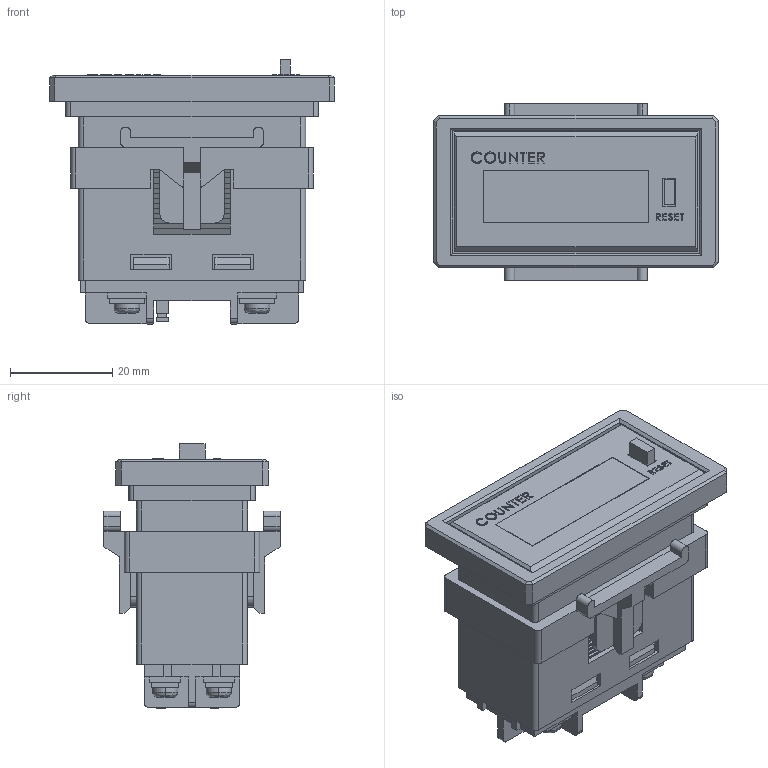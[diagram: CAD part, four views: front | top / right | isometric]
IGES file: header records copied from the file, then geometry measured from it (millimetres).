
Start section: SolidWorks IGES file using analytic representation for surfaces
Global section: file name: D:\X - Arquivos\PROEX\Empresas\P11 - METALTEX\01 - Produtos\IGES\6ª remessa\2ª etapa\LC7.IGS; native system: SolidWorks 2012; preprocessor: SolidWorks 2012; author: Usuario; date: 190213.182746; units: millimetre
Bounding box: 55.8 x 34.5 x 51.75 mm (x, y, z)
Surface area: 15254.1 mm2 (no closed solid volume)
Topology: 0 solids, 0 shells, 701 faces, 5521 edges, 5521 vertices
Faces by surface type: bspline 657, revolution 44
